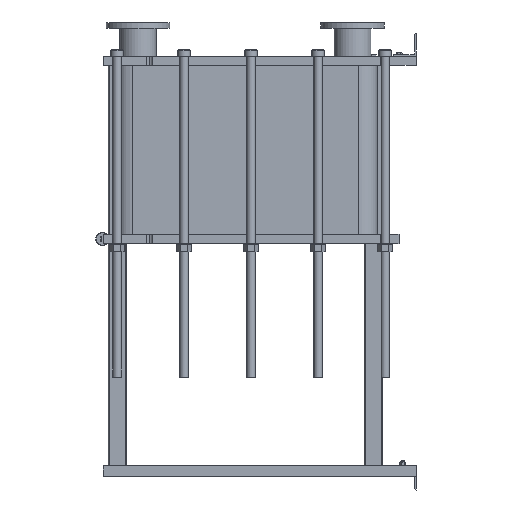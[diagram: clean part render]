
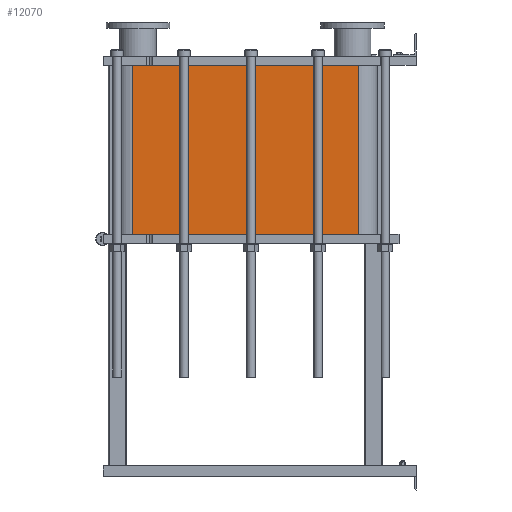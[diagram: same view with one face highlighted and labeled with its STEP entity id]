
A CAD part, left-side view. The second image highlights one B-rep face of the part: STEP entity #12070.
In plain terms, the highlighted planar face has unit normal (-1, 0, 0).
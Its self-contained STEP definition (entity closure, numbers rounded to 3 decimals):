
#1064=LINE('',#21140,#2164);
#1065=LINE('',#21144,#2165);
#1066=LINE('',#21146,#2166);
#1067=LINE('',#21147,#2167);
#2164=VECTOR('',#15790,10.);
#2165=VECTOR('',#15795,10.);
#2166=VECTOR('',#15796,10.);
#2167=VECTOR('',#15797,10.);
#3304=FACE_OUTER_BOUND('',#4091,.T.);
#4091=EDGE_LOOP('',(#9793,#9794,#9795,#9796));
#5677=VERTEX_POINT('',#21137);
#5678=VERTEX_POINT('',#21139);
#5679=VERTEX_POINT('',#21143);
#5680=VERTEX_POINT('',#21145);
#7118=EDGE_CURVE('',#5678,#5677,#1064,.T.);
#7120=EDGE_CURVE('',#5677,#5679,#1065,.T.);
#7121=EDGE_CURVE('',#5680,#5679,#1066,.T.);
#7122=EDGE_CURVE('',#5680,#5678,#1067,.T.);
#9793=ORIENTED_EDGE('',*,*,#7120,.T.);
#9794=ORIENTED_EDGE('',*,*,#7121,.F.);
#9795=ORIENTED_EDGE('',*,*,#7122,.T.);
#9796=ORIENTED_EDGE('',*,*,#7118,.T.);
#11441=PLANE('',#13191);
#12070=ADVANCED_FACE('',(#3304),#11441,.T.);
#13191=AXIS2_PLACEMENT_3D('',#21142,#15793,#15794);
#15790=DIRECTION('',(0.,0.,-1.));
#15793=DIRECTION('center_axis',(-1.,0.,0.));
#15794=DIRECTION('ref_axis',(0.,1.,0.));
#15795=DIRECTION('',(0.,-1.,0.));
#15796=DIRECTION('',(0.,0.,-1.));
#15797=DIRECTION('',(0.,1.,0.));
#21137=CARTESIAN_POINT('',(-248.152,1243.818,-741.75));
#21139=CARTESIAN_POINT('',(-248.152,1243.818,0.));
#21140=CARTESIAN_POINT('',(-248.152,1243.818,0.));
#21142=CARTESIAN_POINT('Origin',(-248.152,251.818,0.));
#21143=CARTESIAN_POINT('',(-248.152,251.818,-741.75));
#21144=CARTESIAN_POINT('',(-248.152,499.818,-741.75));
#21145=CARTESIAN_POINT('',(-248.152,251.818,0.));
#21146=CARTESIAN_POINT('',(-248.152,251.818,0.));
#21147=CARTESIAN_POINT('',(-248.152,251.818,0.));
